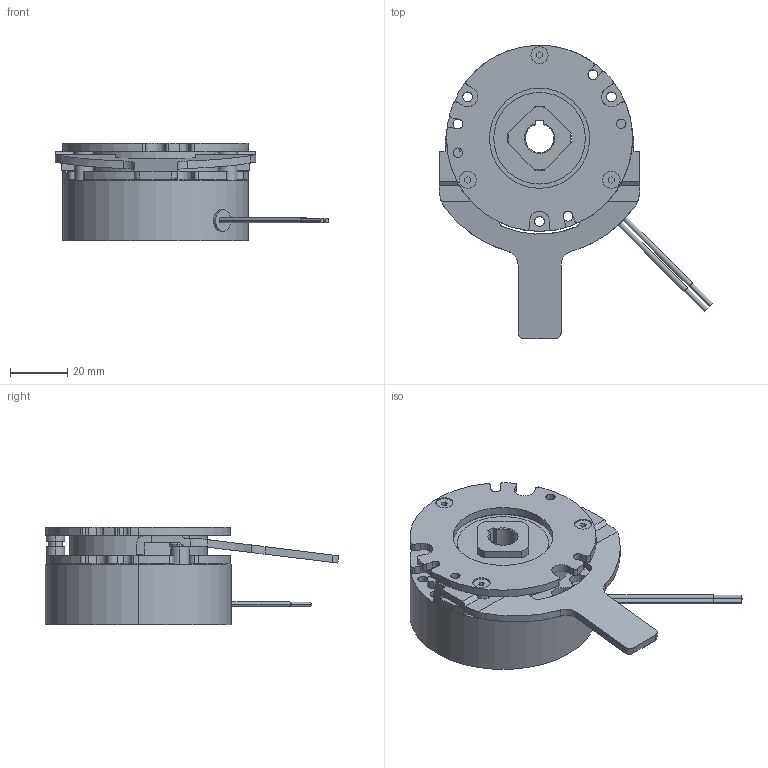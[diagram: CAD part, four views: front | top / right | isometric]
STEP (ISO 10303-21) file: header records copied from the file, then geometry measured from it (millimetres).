
FILE_DESCRIPTION (( 'STEP AP214' ), '1' );
FILE_NAME ('BXW-04-12S-10.STEP', '2018-10-22T06:32:05', ( 'MIKI' ), ( '' ), 'SwSTEP 2.0', 'SolidWorks 2012', '' );
FILE_SCHEMA (( 'AUTOMOTIVE_DESIGN' ));
Length unit declared in the file: millimetre
Products named in the file (1): BXW-04-12S-10
Bounding box: 95.48 x 102.5 x 33.9 mm (x, y, z)
Volume: 90381 mm3; surface area: 32219.6 mm2
Topology: 3 solids, 3 shells, 395 faces, 1059 edges, 688 vertices
Faces by surface type: cylinder 195, plane 174, cone 18, torus 8
Entity records: 17108 total; most frequent: CARTESIAN_POINT 2491, DIRECTION 2221, ORIENTED_EDGE 2110, EDGE_CURVE 1055, AXIS2_PLACEMENT_3D 814, VERTEX_POINT 688, LINE 593, VECTOR 593
